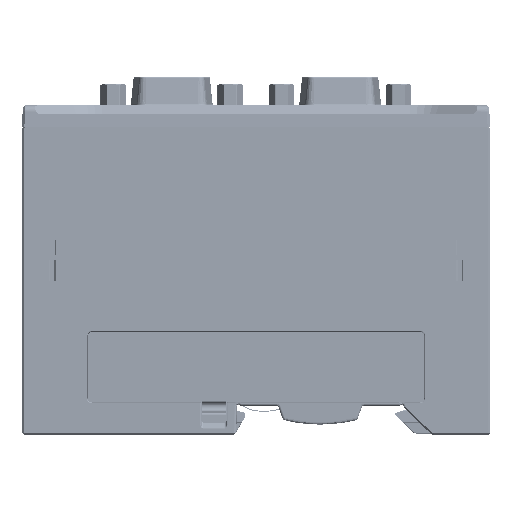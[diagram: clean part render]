
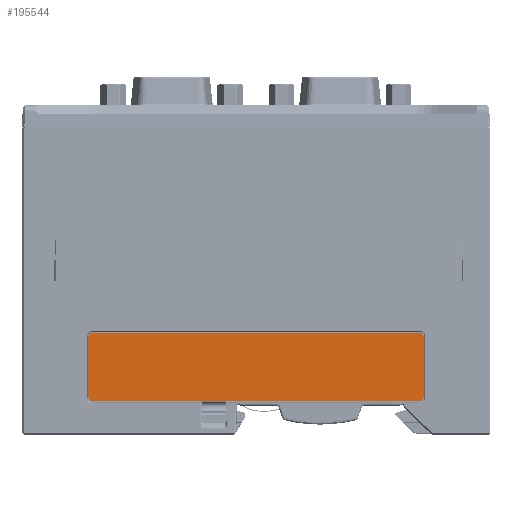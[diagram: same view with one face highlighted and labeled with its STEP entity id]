
A CAD part, left-side view. The second image highlights one B-rep face of the part: STEP entity #195544.
In plain terms, the highlighted planar face has unit normal (-1, 0, 0).
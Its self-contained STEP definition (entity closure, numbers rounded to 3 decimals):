
#1618 = CARTESIAN_POINT ( 'NONE',  ( -1., 35.8, 21.05 ) ) ;
#2736 = CIRCLE ( 'NONE', #183832, 0.8 ) ;
#3024 = VECTOR ( 'NONE', #47091, 1000. ) ;
#4239 = DIRECTION ( 'NONE',  ( -1., 0., 0. ) ) ;
#8679 = VECTOR ( 'NONE', #265159, 1000. ) ;
#16333 = EDGE_LOOP ( 'NONE', ( #45399, #215786, #113487, #218616, #151289, #35611, #101393, #251029 ) ) ;
#26950 = EDGE_CURVE ( 'NONE', #227600, #88058, #256681, .T. ) ;
#35054 = CARTESIAN_POINT ( 'NONE',  ( -1., 35.8, 0. ) ) ;
#35611 = ORIENTED_EDGE ( 'NONE', *, *, #239067, .T. ) ;
#43549 = AXIS2_PLACEMENT_3D ( 'NONE', #58715, #163931, #144694 ) ;
#44115 = VERTEX_POINT ( 'NONE', #88657 ) ;
#45295 = VECTOR ( 'NONE', #90057, 1000. ) ;
#45399 = ORIENTED_EDGE ( 'NONE', *, *, #70419, .T. ) ;
#47091 = DIRECTION ( 'NONE',  ( 0., 0., 1. ) ) ;
#49808 = CARTESIAN_POINT ( 'NONE',  ( -1., -35.8, 0. ) ) ;
#58715 = CARTESIAN_POINT ( 'NONE',  ( -1., 0., 0. ) ) ;
#59918 = VERTEX_POINT ( 'NONE', #199168 ) ;
#67729 = DIRECTION ( 'NONE',  ( 0., 0., -1. ) ) ;
#70419 = EDGE_CURVE ( 'NONE', #246287, #270567, #132162, .T. ) ;
#71657 = EDGE_CURVE ( 'NONE', #59918, #246287, #219928, .T. ) ;
#77959 = PLANE ( 'NONE',  #43549 ) ;
#78528 = DIRECTION ( 'NONE',  ( 0., 1., 0. ) ) ;
#80911 = CARTESIAN_POINT ( 'NONE',  ( -1., 35., 7.15 ) ) ;
#88058 = VERTEX_POINT ( 'NONE', #238662 ) ;
#88170 = CARTESIAN_POINT ( 'NONE',  ( -1., 35., 21.05 ) ) ;
#88657 = CARTESIAN_POINT ( 'NONE',  ( -1., -35.8, 7.95 ) ) ;
#90057 = DIRECTION ( 'NONE',  ( 0., -1., 0. ) ) ;
#93833 = CARTESIAN_POINT ( 'NONE',  ( -1., -35., 7.15 ) ) ;
#96907 = DIRECTION ( 'NONE',  ( -1., 0., 0. ) ) ;
#101393 = ORIENTED_EDGE ( 'NONE', *, *, #201243, .T. ) ;
#107559 = LINE ( 'NONE', #194260, #45295 ) ;
#110518 = EDGE_CURVE ( 'NONE', #88058, #155951, #131589, .T. ) ;
#113487 = ORIENTED_EDGE ( 'NONE', *, *, #26950, .T. ) ;
#113528 = DIRECTION ( 'NONE',  ( -1., 0., 0. ) ) ;
#120489 = EDGE_CURVE ( 'NONE', #270567, #227600, #2736, .T. ) ;
#131589 = CIRCLE ( 'NONE', #145327, 0.8 ) ;
#132162 = LINE ( 'NONE', #160908, #158763 ) ;
#144694 = DIRECTION ( 'NONE',  ( 0., 0., 1. ) ) ;
#145327 = AXIS2_PLACEMENT_3D ( 'NONE', #162723, #96907, #160923 ) ;
#151289 = ORIENTED_EDGE ( 'NONE', *, *, #152231, .T. ) ;
#152231 = EDGE_CURVE ( 'NONE', #155951, #270546, #107559, .T. ) ;
#155951 = VERTEX_POINT ( 'NONE', #80911 ) ;
#158763 = VECTOR ( 'NONE', #78528, 1000. ) ;
#160908 = CARTESIAN_POINT ( 'NONE',  ( -1., 0., 21.85 ) ) ;
#160923 = DIRECTION ( 'NONE',  ( 0., 0., -1. ) ) ;
#162723 = CARTESIAN_POINT ( 'NONE',  ( -1., 35., 7.95 ) ) ;
#163931 = DIRECTION ( 'NONE',  ( -1., 0., 0. ) ) ;
#183832 = AXIS2_PLACEMENT_3D ( 'NONE', #88170, #4239, #194150 ) ;
#185992 = LINE ( 'NONE', #49808, #3024 ) ;
#189114 = AXIS2_PLACEMENT_3D ( 'NONE', #239414, #113528, #259487 ) ;
#189595 = AXIS2_PLACEMENT_3D ( 'NONE', #256719, #237525, #67729 ) ;
#192301 = FACE_OUTER_BOUND ( 'NONE', #16333, .T. ) ;
#194150 = DIRECTION ( 'NONE',  ( 0., 0., -1. ) ) ;
#194260 = CARTESIAN_POINT ( 'NONE',  ( -1., 0., 7.15 ) ) ;
#195544 = ADVANCED_FACE ( 'NONE', ( #192301 ), #77959, .T. ) ;
#196765 = CARTESIAN_POINT ( 'NONE',  ( -1., -35., 21.85 ) ) ;
#198208 = CIRCLE ( 'NONE', #189114, 0.8 ) ;
#199168 = CARTESIAN_POINT ( 'NONE',  ( -1., -35.8, 21.05 ) ) ;
#201243 = EDGE_CURVE ( 'NONE', #44115, #59918, #185992, .T. ) ;
#215786 = ORIENTED_EDGE ( 'NONE', *, *, #120489, .T. ) ;
#218616 = ORIENTED_EDGE ( 'NONE', *, *, #110518, .T. ) ;
#219928 = CIRCLE ( 'NONE', #189595, 0.8 ) ;
#227600 = VERTEX_POINT ( 'NONE', #1618 ) ;
#237525 = DIRECTION ( 'NONE',  ( -1., 0., 0. ) ) ;
#238662 = CARTESIAN_POINT ( 'NONE',  ( -1., 35.8, 7.95 ) ) ;
#239067 = EDGE_CURVE ( 'NONE', #270546, #44115, #198208, .T. ) ;
#239414 = CARTESIAN_POINT ( 'NONE',  ( -1., -35., 7.95 ) ) ;
#241663 = CARTESIAN_POINT ( 'NONE',  ( -1., 35., 21.85 ) ) ;
#246287 = VERTEX_POINT ( 'NONE', #196765 ) ;
#251029 = ORIENTED_EDGE ( 'NONE', *, *, #71657, .T. ) ;
#256681 = LINE ( 'NONE', #35054, #8679 ) ;
#256719 = CARTESIAN_POINT ( 'NONE',  ( -1., -35., 21.05 ) ) ;
#259487 = DIRECTION ( 'NONE',  ( 0., 0., -1. ) ) ;
#265159 = DIRECTION ( 'NONE',  ( 0., 0., -1. ) ) ;
#270546 = VERTEX_POINT ( 'NONE', #93833 ) ;
#270567 = VERTEX_POINT ( 'NONE', #241663 ) ;
